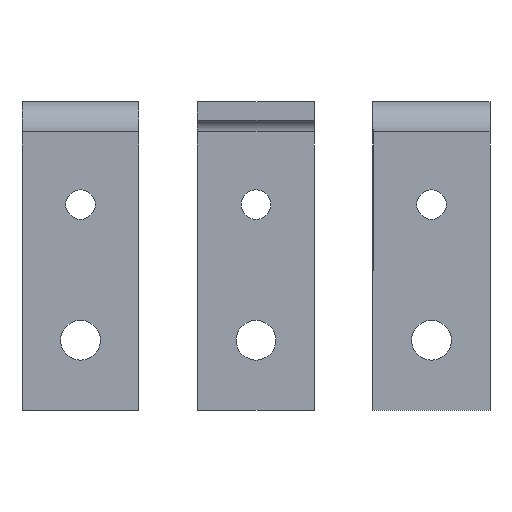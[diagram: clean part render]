
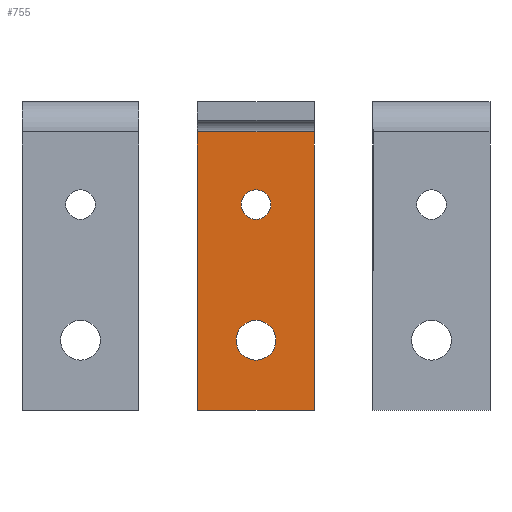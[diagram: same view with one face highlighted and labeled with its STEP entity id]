
A CAD part, front view. The second image highlights one B-rep face of the part: STEP entity #755.
In plain terms, the highlighted planar face has unit normal (0, -1, 0).
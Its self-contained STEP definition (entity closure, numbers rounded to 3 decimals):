
#18 = CARTESIAN_POINT ( 'NONE',  ( -12.5, -65., -42.2 ) ) ;
#111 = EDGE_CURVE ( 'NONE', #1723, #4424, #2320, .T. ) ;
#167 = CARTESIAN_POINT ( 'NONE',  ( -12.5, -65., 17.3 ) ) ;
#217 = CARTESIAN_POINT ( 'NONE',  ( 0., -65., -22.95 ) ) ;
#298 = VECTOR ( 'NONE', #1312, 1000. ) ;
#363 = EDGE_CURVE ( 'NONE', #2661, #2267, #2382, .T. ) ;
#497 = EDGE_CURVE ( 'NONE', #2860, #3304, #2127, .T. ) ;
#575 = CARTESIAN_POINT ( 'NONE',  ( 0., -65., -27.2 ) ) ;
#598 = EDGE_LOOP ( 'NONE', ( #708, #1540 ) ) ;
#623 = AXIS2_PLACEMENT_3D ( 'NONE', #3745, #3702, #1581 ) ;
#708 = ORIENTED_EDGE ( 'NONE', *, *, #1275, .F. ) ;
#755 = ADVANCED_FACE ( 'NONE', ( #2234, #4273, #3956 ), #1254, .F. ) ;
#774 = AXIS2_PLACEMENT_3D ( 'NONE', #575, #4452, #2017 ) ;
#856 = CARTESIAN_POINT ( 'NONE',  ( 12.5, -65., -42.2 ) ) ;
#1002 = CIRCLE ( 'NONE', #774, 4.25 ) ;
#1045 = DIRECTION ( 'NONE',  ( 0., -1., 0. ) ) ;
#1069 = CARTESIAN_POINT ( 'NONE',  ( 0., -65., -31.45 ) ) ;
#1161 = VECTOR ( 'NONE', #3891, 1000. ) ;
#1254 = PLANE ( 'NONE',  #623 ) ;
#1271 = LINE ( 'NONE', #4255, #3773 ) ;
#1275 = EDGE_CURVE ( 'NONE', #4512, #1931, #1002, .T. ) ;
#1312 = DIRECTION ( 'NONE',  ( 1., 0., 0. ) ) ;
#1326 = EDGE_LOOP ( 'NONE', ( #3317, #4488 ) ) ;
#1540 = ORIENTED_EDGE ( 'NONE', *, *, #3307, .F. ) ;
#1581 = DIRECTION ( 'NONE',  ( 0., 0., -1. ) ) ;
#1723 = VERTEX_POINT ( 'NONE', #3589 ) ;
#1795 = CARTESIAN_POINT ( 'NONE',  ( 0., -65., -27.2 ) ) ;
#1872 = ORIENTED_EDGE ( 'NONE', *, *, #363, .F. ) ;
#1904 = DIRECTION ( 'NONE',  ( 0., -1., 0. ) ) ;
#1931 = VERTEX_POINT ( 'NONE', #217 ) ;
#2017 = DIRECTION ( 'NONE',  ( 0., 0., -1. ) ) ;
#2127 = LINE ( 'NONE', #4606, #1161 ) ;
#2234 = FACE_BOUND ( 'NONE', #598, .T. ) ;
#2267 = VERTEX_POINT ( 'NONE', #167 ) ;
#2320 = CIRCLE ( 'NONE', #4072, 3.15 ) ;
#2382 = LINE ( 'NONE', #2418, #4060 ) ;
#2418 = CARTESIAN_POINT ( 'NONE',  ( -12.5, -65., -42.2 ) ) ;
#2534 = DIRECTION ( 'NONE',  ( 0., -1., 0. ) ) ;
#2564 = CARTESIAN_POINT ( 'NONE',  ( 0., -65., 1.8 ) ) ;
#2647 = LINE ( 'NONE', #3810, #298 ) ;
#2661 = VERTEX_POINT ( 'NONE', #18 ) ;
#2834 = AXIS2_PLACEMENT_3D ( 'NONE', #1795, #1045, #3199 ) ;
#2860 = VERTEX_POINT ( 'NONE', #856 ) ;
#3119 = EDGE_CURVE ( 'NONE', #4424, #1723, #3545, .T. ) ;
#3165 = CARTESIAN_POINT ( 'NONE',  ( 0., -65., -1.35 ) ) ;
#3199 = DIRECTION ( 'NONE',  ( 0., 0., -1. ) ) ;
#3240 = DIRECTION ( 'NONE',  ( 1., 0., 0. ) ) ;
#3304 = VERTEX_POINT ( 'NONE', #3576 ) ;
#3307 = EDGE_CURVE ( 'NONE', #1931, #4512, #3761, .T. ) ;
#3308 = ORIENTED_EDGE ( 'NONE', *, *, #497, .T. ) ;
#3317 = ORIENTED_EDGE ( 'NONE', *, *, #3119, .F. ) ;
#3407 = EDGE_CURVE ( 'NONE', #2267, #3304, #2647, .T. ) ;
#3522 = ORIENTED_EDGE ( 'NONE', *, *, #3407, .F. ) ;
#3545 = CIRCLE ( 'NONE', #3662, 3.15 ) ;
#3576 = CARTESIAN_POINT ( 'NONE',  ( 12.5, -65., 17.3 ) ) ;
#3589 = CARTESIAN_POINT ( 'NONE',  ( 0., -65., 4.95 ) ) ;
#3658 = DIRECTION ( 'NONE',  ( 0., 0., -1. ) ) ;
#3662 = AXIS2_PLACEMENT_3D ( 'NONE', #4020, #1904, #4401 ) ;
#3702 = DIRECTION ( 'NONE',  ( 0., 1., 0. ) ) ;
#3745 = CARTESIAN_POINT ( 'NONE',  ( -12.5, -65., -42.2 ) ) ;
#3761 = CIRCLE ( 'NONE', #2834, 4.25 ) ;
#3773 = VECTOR ( 'NONE', #3240, 1000. ) ;
#3810 = CARTESIAN_POINT ( 'NONE',  ( -12.5, -65., 17.3 ) ) ;
#3891 = DIRECTION ( 'NONE',  ( 0., 0., 1. ) ) ;
#3956 = FACE_OUTER_BOUND ( 'NONE', #4535, .T. ) ;
#4020 = CARTESIAN_POINT ( 'NONE',  ( 0., -65., 1.8 ) ) ;
#4060 = VECTOR ( 'NONE', #4559, 1000. ) ;
#4072 = AXIS2_PLACEMENT_3D ( 'NONE', #2564, #2534, #3658 ) ;
#4155 = ORIENTED_EDGE ( 'NONE', *, *, #4567, .T. ) ;
#4255 = CARTESIAN_POINT ( 'NONE',  ( -12.5, -65., -42.2 ) ) ;
#4273 = FACE_BOUND ( 'NONE', #1326, .T. ) ;
#4401 = DIRECTION ( 'NONE',  ( 0., 0., -1. ) ) ;
#4424 = VERTEX_POINT ( 'NONE', #3165 ) ;
#4452 = DIRECTION ( 'NONE',  ( 0., -1., 0. ) ) ;
#4488 = ORIENTED_EDGE ( 'NONE', *, *, #111, .F. ) ;
#4512 = VERTEX_POINT ( 'NONE', #1069 ) ;
#4535 = EDGE_LOOP ( 'NONE', ( #3308, #3522, #1872, #4155 ) ) ;
#4559 = DIRECTION ( 'NONE',  ( 0., 0., 1. ) ) ;
#4567 = EDGE_CURVE ( 'NONE', #2661, #2860, #1271, .T. ) ;
#4606 = CARTESIAN_POINT ( 'NONE',  ( 12.5, -65., -42.2 ) ) ;
